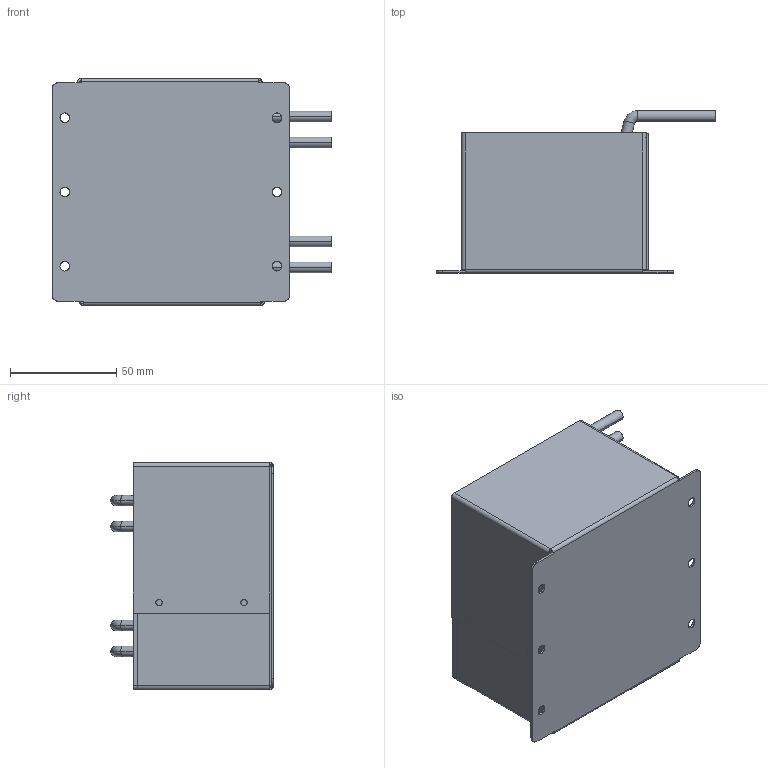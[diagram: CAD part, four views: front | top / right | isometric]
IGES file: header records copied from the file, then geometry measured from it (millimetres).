
Start section: SolidWorks IGES file using analytic representation for surfaces
Global section: file name: 19H\\10.106.230.1\r&d file\05_COMP\02_Mechanical\10_Others\PV_RT 81\网络用3D模型\灌封模型\S-3KW-S-ACL\S-3KW_S_ACL 总装.IGS; native system: SolidWorks 2009; preprocessor: SolidWorks 2009; author: 钱雅婧, ,; organization: 11; date: 120507.163847; units: millimetre
Bounding box: 131.9 x 76.5 x 107 mm (x, y, z)
Surface area: 121703.4 mm2 (no closed solid volume)
Topology: 0 solids, 0 shells, 128 faces, 976 edges, 976 vertices
Faces by surface type: bspline 72, revolution 56
